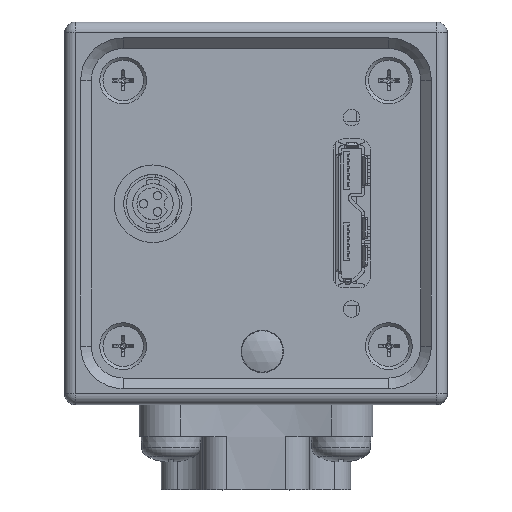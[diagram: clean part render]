
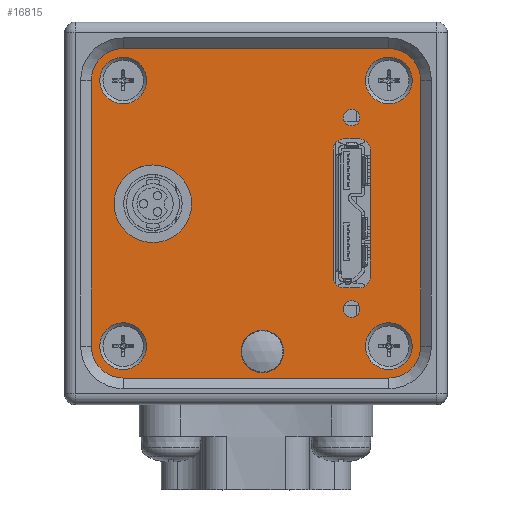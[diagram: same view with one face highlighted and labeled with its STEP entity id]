
A CAD part, top view. The second image highlights one B-rep face of the part: STEP entity #16815.
In plain terms, the highlighted planar face has unit normal (0, 0, 1).
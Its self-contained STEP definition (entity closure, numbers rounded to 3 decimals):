
#696=FACE_BOUND('',#3125,.T.);
#697=FACE_BOUND('',#3126,.T.);
#698=FACE_BOUND('',#3127,.T.);
#699=FACE_BOUND('',#3128,.T.);
#700=FACE_BOUND('',#3129,.T.);
#701=FACE_BOUND('',#3130,.T.);
#702=FACE_BOUND('',#3131,.T.);
#703=FACE_BOUND('',#3132,.T.);
#704=FACE_BOUND('',#3133,.T.);
#1222=CIRCLE('',#18259,3.);
#1223=CIRCLE('',#18260,3.);
#1224=CIRCLE('',#18261,3.);
#1225=CIRCLE('',#18262,3.);
#1226=CIRCLE('',#18263,2.);
#1227=CIRCLE('',#18264,3.65);
#1228=CIRCLE('',#18265,2.2);
#1229=CIRCLE('',#18266,2.2);
#1230=CIRCLE('',#18267,2.2);
#1231=CIRCLE('',#18268,2.2);
#1232=CIRCLE('',#18269,0.784);
#1233=CIRCLE('',#18270,0.784);
#1234=CIRCLE('',#18271,1.);
#1235=CIRCLE('',#18272,1.);
#1236=CIRCLE('',#18273,1.);
#1237=CIRCLE('',#18274,1.);
#2141=FACE_OUTER_BOUND('',#3124,.T.);
#3124=EDGE_LOOP('',(#13120,#13121,#13122,#13123,#13124,#13125,#13126,#13127));
#3125=EDGE_LOOP('',(#13128));
#3126=EDGE_LOOP('',(#13129));
#3127=EDGE_LOOP('',(#13130));
#3128=EDGE_LOOP('',(#13131));
#3129=EDGE_LOOP('',(#13132));
#3130=EDGE_LOOP('',(#13133));
#3131=EDGE_LOOP('',(#13134));
#3132=EDGE_LOOP('',(#13135));
#3133=EDGE_LOOP('',(#13136,#13137,#13138,#13139,#13140,#13141,#13142,#13143));
#4792=LINE('',#27161,#6176);
#4793=LINE('',#27165,#6177);
#4794=LINE('',#27169,#6178);
#4795=LINE('',#27173,#6179);
#4796=LINE('',#27193,#6180);
#4797=LINE('',#27197,#6181);
#4798=LINE('',#27201,#6182);
#4799=LINE('',#27205,#6183);
#6176=VECTOR('',#21904,10.);
#6177=VECTOR('',#21907,10.);
#6178=VECTOR('',#21910,10.);
#6179=VECTOR('',#21913,10.);
#6180=VECTOR('',#21932,10.);
#6181=VECTOR('',#21935,10.);
#6182=VECTOR('',#21938,10.);
#6183=VECTOR('',#21941,10.);
#7481=VERTEX_POINT('',#27159);
#7482=VERTEX_POINT('',#27160);
#7483=VERTEX_POINT('',#27162);
#7484=VERTEX_POINT('',#27164);
#7485=VERTEX_POINT('',#27166);
#7486=VERTEX_POINT('',#27168);
#7487=VERTEX_POINT('',#27170);
#7488=VERTEX_POINT('',#27172);
#7489=VERTEX_POINT('',#27175);
#7490=VERTEX_POINT('',#27177);
#7491=VERTEX_POINT('',#27179);
#7492=VERTEX_POINT('',#27181);
#7493=VERTEX_POINT('',#27183);
#7494=VERTEX_POINT('',#27185);
#7495=VERTEX_POINT('',#27187);
#7496=VERTEX_POINT('',#27189);
#7497=VERTEX_POINT('',#27191);
#7498=VERTEX_POINT('',#27192);
#7499=VERTEX_POINT('',#27194);
#7500=VERTEX_POINT('',#27196);
#7501=VERTEX_POINT('',#27198);
#7502=VERTEX_POINT('',#27200);
#7503=VERTEX_POINT('',#27202);
#7504=VERTEX_POINT('',#27204);
#9511=EDGE_CURVE('',#7481,#7482,#4792,.T.);
#9512=EDGE_CURVE('',#7483,#7481,#1222,.T.);
#9513=EDGE_CURVE('',#7484,#7483,#4793,.T.);
#9514=EDGE_CURVE('',#7485,#7484,#1223,.T.);
#9515=EDGE_CURVE('',#7486,#7485,#4794,.T.);
#9516=EDGE_CURVE('',#7487,#7486,#1224,.T.);
#9517=EDGE_CURVE('',#7488,#7487,#4795,.T.);
#9518=EDGE_CURVE('',#7482,#7488,#1225,.T.);
#9519=EDGE_CURVE('',#7489,#7489,#1226,.T.);
#9520=EDGE_CURVE('',#7490,#7490,#1227,.T.);
#9521=EDGE_CURVE('',#7491,#7491,#1228,.T.);
#9522=EDGE_CURVE('',#7492,#7492,#1229,.T.);
#9523=EDGE_CURVE('',#7493,#7493,#1230,.T.);
#9524=EDGE_CURVE('',#7494,#7494,#1231,.T.);
#9525=EDGE_CURVE('',#7495,#7495,#1232,.T.);
#9526=EDGE_CURVE('',#7496,#7496,#1233,.T.);
#9527=EDGE_CURVE('',#7497,#7498,#4796,.T.);
#9528=EDGE_CURVE('',#7499,#7498,#1234,.T.);
#9529=EDGE_CURVE('',#7499,#7500,#4797,.T.);
#9530=EDGE_CURVE('',#7501,#7500,#1235,.T.);
#9531=EDGE_CURVE('',#7501,#7502,#4798,.T.);
#9532=EDGE_CURVE('',#7503,#7502,#1236,.T.);
#9533=EDGE_CURVE('',#7503,#7504,#4799,.T.);
#9534=EDGE_CURVE('',#7497,#7504,#1237,.T.);
#13120=ORIENTED_EDGE('',*,*,#9511,.F.);
#13121=ORIENTED_EDGE('',*,*,#9512,.F.);
#13122=ORIENTED_EDGE('',*,*,#9513,.F.);
#13123=ORIENTED_EDGE('',*,*,#9514,.F.);
#13124=ORIENTED_EDGE('',*,*,#9515,.F.);
#13125=ORIENTED_EDGE('',*,*,#9516,.F.);
#13126=ORIENTED_EDGE('',*,*,#9517,.F.);
#13127=ORIENTED_EDGE('',*,*,#9518,.F.);
#13128=ORIENTED_EDGE('',*,*,#9519,.T.);
#13129=ORIENTED_EDGE('',*,*,#9520,.T.);
#13130=ORIENTED_EDGE('',*,*,#9521,.T.);
#13131=ORIENTED_EDGE('',*,*,#9522,.T.);
#13132=ORIENTED_EDGE('',*,*,#9523,.T.);
#13133=ORIENTED_EDGE('',*,*,#9524,.T.);
#13134=ORIENTED_EDGE('',*,*,#9525,.T.);
#13135=ORIENTED_EDGE('',*,*,#9526,.T.);
#13136=ORIENTED_EDGE('',*,*,#9527,.T.);
#13137=ORIENTED_EDGE('',*,*,#9528,.F.);
#13138=ORIENTED_EDGE('',*,*,#9529,.T.);
#13139=ORIENTED_EDGE('',*,*,#9530,.F.);
#13140=ORIENTED_EDGE('',*,*,#9531,.T.);
#13141=ORIENTED_EDGE('',*,*,#9532,.F.);
#13142=ORIENTED_EDGE('',*,*,#9533,.T.);
#13143=ORIENTED_EDGE('',*,*,#9534,.F.);
#15288=PLANE('',#18258);
#16815=ADVANCED_FACE('',(#2141,#696,#697,#698,#699,#700,#701,#702,#703,
#704),#15288,.F.);
#18258=AXIS2_PLACEMENT_3D('',#27158,#21902,#21903);
#18259=AXIS2_PLACEMENT_3D('',#27163,#21905,#21906);
#18260=AXIS2_PLACEMENT_3D('',#27167,#21908,#21909);
#18261=AXIS2_PLACEMENT_3D('',#27171,#21911,#21912);
#18262=AXIS2_PLACEMENT_3D('',#27174,#21914,#21915);
#18263=AXIS2_PLACEMENT_3D('',#27176,#21916,#21917);
#18264=AXIS2_PLACEMENT_3D('',#27178,#21918,#21919);
#18265=AXIS2_PLACEMENT_3D('',#27180,#21920,#21921);
#18266=AXIS2_PLACEMENT_3D('',#27182,#21922,#21923);
#18267=AXIS2_PLACEMENT_3D('',#27184,#21924,#21925);
#18268=AXIS2_PLACEMENT_3D('',#27186,#21926,#21927);
#18269=AXIS2_PLACEMENT_3D('',#27188,#21928,#21929);
#18270=AXIS2_PLACEMENT_3D('',#27190,#21930,#21931);
#18271=AXIS2_PLACEMENT_3D('',#27195,#21933,#21934);
#18272=AXIS2_PLACEMENT_3D('',#27199,#21936,#21937);
#18273=AXIS2_PLACEMENT_3D('',#27203,#21939,#21940);
#18274=AXIS2_PLACEMENT_3D('',#27206,#21942,#21943);
#21902=DIRECTION('center_axis',(0.,0.,-1.));
#21903=DIRECTION('ref_axis',(-1.,0.,0.));
#21904=DIRECTION('',(0.,-1.,0.));
#21905=DIRECTION('center_axis',(0.,0.,-1.));
#21906=DIRECTION('ref_axis',(-1.,0.,0.));
#21907=DIRECTION('',(1.,0.,0.));
#21908=DIRECTION('center_axis',(0.,0.,-1.));
#21909=DIRECTION('ref_axis',(0.,-1.,0.));
#21910=DIRECTION('',(0.,1.,0.));
#21911=DIRECTION('center_axis',(0.,0.,-1.));
#21912=DIRECTION('ref_axis',(1.,0.,0.));
#21913=DIRECTION('',(-1.,0.,0.));
#21914=DIRECTION('center_axis',(0.,0.,-1.));
#21915=DIRECTION('ref_axis',(0.,1.,0.));
#21916=DIRECTION('center_axis',(0.,0.,-1.));
#21917=DIRECTION('ref_axis',(-1.,0.,0.));
#21918=DIRECTION('center_axis',(0.,0.,-1.));
#21919=DIRECTION('ref_axis',(1.,0.,0.));
#21920=DIRECTION('center_axis',(0.,0.,-1.));
#21921=DIRECTION('ref_axis',(1.,0.,0.));
#21922=DIRECTION('center_axis',(0.,0.,-1.));
#21923=DIRECTION('ref_axis',(1.,0.,0.));
#21924=DIRECTION('center_axis',(0.,0.,-1.));
#21925=DIRECTION('ref_axis',(1.,0.,0.));
#21926=DIRECTION('center_axis',(0.,0.,-1.));
#21927=DIRECTION('ref_axis',(1.,0.,0.));
#21928=DIRECTION('center_axis',(0.,0.,-1.));
#21929=DIRECTION('ref_axis',(1.,0.,0.));
#21930=DIRECTION('center_axis',(0.,0.,-1.));
#21931=DIRECTION('ref_axis',(1.,0.,0.));
#21932=DIRECTION('',(1.,0.,0.));
#21933=DIRECTION('center_axis',(0.,0.,1.));
#21934=DIRECTION('ref_axis',(0.707,0.707,0.));
#21935=DIRECTION('',(0.,-1.,0.));
#21936=DIRECTION('center_axis',(0.,0.,1.));
#21937=DIRECTION('ref_axis',(0.707,-0.707,0.));
#21938=DIRECTION('',(-1.,0.,0.));
#21939=DIRECTION('center_axis',(0.,0.,1.));
#21940=DIRECTION('ref_axis',(-0.707,-0.707,0.));
#21941=DIRECTION('',(0.,1.,0.));
#21942=DIRECTION('center_axis',(0.,0.,1.));
#21943=DIRECTION('ref_axis',(-0.707,0.707,0.));
#27158=CARTESIAN_POINT('Origin',(0.,0.,
15.5));
#27159=CARTESIAN_POINT('',(15.5,12.5,15.5));
#27160=CARTESIAN_POINT('',(15.5,-12.5,15.5));
#27161=CARTESIAN_POINT('',(15.5,12.5,15.5));
#27162=CARTESIAN_POINT('',(12.5,15.5,15.5));
#27163=CARTESIAN_POINT('Origin',(12.5,12.5,15.5));
#27164=CARTESIAN_POINT('',(-12.5,15.5,15.5));
#27165=CARTESIAN_POINT('',(-12.5,15.5,15.5));
#27166=CARTESIAN_POINT('',(-15.5,12.5,15.5));
#27167=CARTESIAN_POINT('Origin',(-12.5,12.5,15.5));
#27168=CARTESIAN_POINT('',(-15.5,-12.5,15.5));
#27169=CARTESIAN_POINT('',(-15.5,-12.5,15.5));
#27170=CARTESIAN_POINT('',(-12.5,-15.5,15.5));
#27171=CARTESIAN_POINT('Origin',(-12.5,-12.5,15.5));
#27172=CARTESIAN_POINT('',(12.5,-15.5,15.5));
#27173=CARTESIAN_POINT('',(12.5,-15.5,15.5));
#27174=CARTESIAN_POINT('Origin',(12.5,-12.5,15.5));
#27175=CARTESIAN_POINT('',(2.6,-13.,15.5));
#27176=CARTESIAN_POINT('Origin',(0.6,-13.,15.5));
#27177=CARTESIAN_POINT('',(-6.05,0.9,15.5));
#27178=CARTESIAN_POINT('Origin',(-9.7,0.9,15.5));
#27179=CARTESIAN_POINT('',(-10.3,-12.5,15.5));
#27180=CARTESIAN_POINT('Origin',(-12.5,-12.5,15.5));
#27181=CARTESIAN_POINT('',(-10.3,12.5,15.5));
#27182=CARTESIAN_POINT('Origin',(-12.5,12.5,15.5));
#27183=CARTESIAN_POINT('',(14.7,12.5,15.5));
#27184=CARTESIAN_POINT('Origin',(12.5,12.5,15.5));
#27185=CARTESIAN_POINT('',(14.7,-12.5,15.5));
#27186=CARTESIAN_POINT('Origin',(12.5,-12.5,15.5));
#27187=CARTESIAN_POINT('',(9.784,9.,15.5));
#27188=CARTESIAN_POINT('Origin',(9.,9.,15.5));
#27189=CARTESIAN_POINT('',(9.784,-9.,15.5));
#27190=CARTESIAN_POINT('Origin',(9.,-9.,15.5));
#27191=CARTESIAN_POINT('',(8.25,7.,15.5));
#27192=CARTESIAN_POINT('',(9.75,7.,15.5));
#27193=CARTESIAN_POINT('',(3.625,7.,15.5));
#27194=CARTESIAN_POINT('',(10.75,6.,15.5));
#27195=CARTESIAN_POINT('Origin',(9.75,6.,15.5));
#27196=CARTESIAN_POINT('',(10.75,-6.,15.5));
#27197=CARTESIAN_POINT('',(10.75,3.5,15.5));
#27198=CARTESIAN_POINT('',(9.75,-7.,15.5));
#27199=CARTESIAN_POINT('Origin',(9.75,-6.,15.5));
#27200=CARTESIAN_POINT('',(8.25,-7.,15.5));
#27201=CARTESIAN_POINT('',(5.375,-7.,15.5));
#27202=CARTESIAN_POINT('',(7.25,-6.,15.5));
#27203=CARTESIAN_POINT('Origin',(8.25,-6.,15.5));
#27204=CARTESIAN_POINT('',(7.25,6.,15.5));
#27205=CARTESIAN_POINT('',(7.25,-3.5,15.5));
#27206=CARTESIAN_POINT('Origin',(8.25,6.,15.5));
